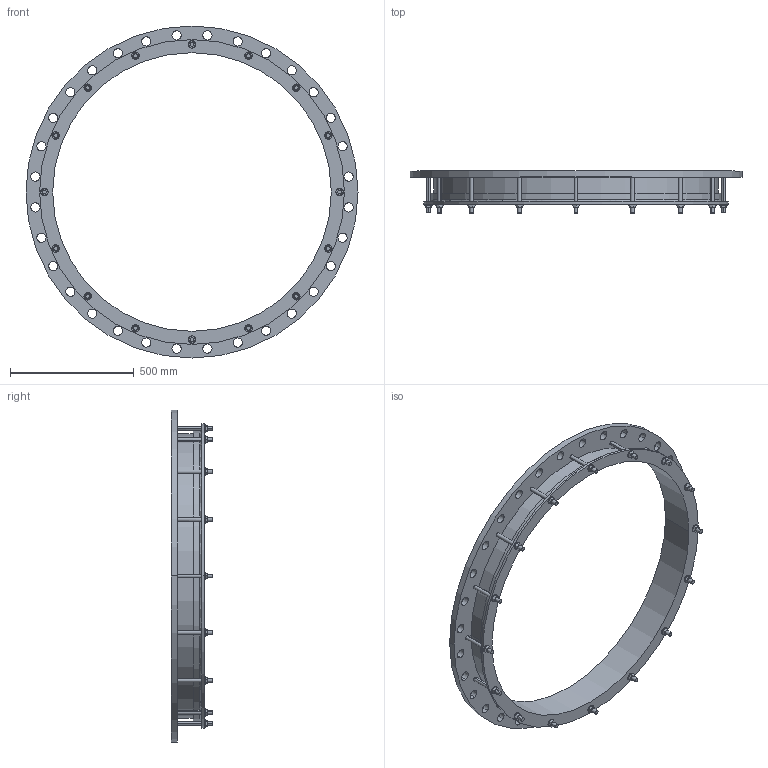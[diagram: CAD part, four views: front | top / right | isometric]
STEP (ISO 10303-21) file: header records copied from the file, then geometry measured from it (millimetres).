
FILE_DESCRIPTION((''),'2;1');
FILE_NAME('1121X1100PN10','2019-01-17T',('mfairey'),('Glynwed Pipe Systems'),'CREO PARAMETRIC BY PTC INC, 2016130','CREO PARAMETRIC BY PTC INC, 2016130','');
FILE_SCHEMA(('CONFIG_CONTROL_DESIGN'));
Length unit declared in the file: millimetre
Products named in the file (1): 1121X1100PN10
Bounding box: 1340 x 169 x 1340 mm (x, y, z)
Volume: 17566280.9 mm3; surface area: 2236085.3 mm2
Topology: 1 solids, 1 shells, 322 faces, 854 edges, 568 vertices
Faces by surface type: cylinder 168, plane 148, cone 4, torus 2
Entity records: 11414 total; most frequent: CARTESIAN_POINT 2968, DIRECTION 1756, ORIENTED_EDGE 1708, EDGE_CURVE 854, AXIS2_PLACEMENT_3D 648, VERTEX_POINT 568, VECTOR 460, LINE 460
